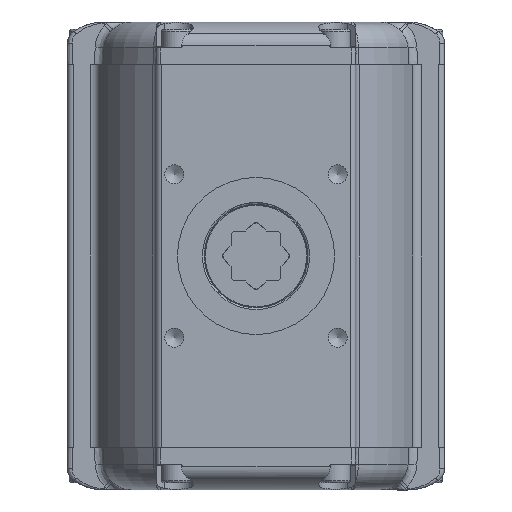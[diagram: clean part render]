
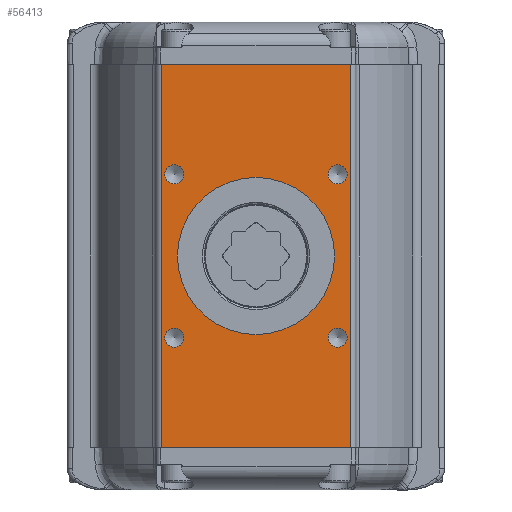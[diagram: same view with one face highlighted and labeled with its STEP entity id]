
A CAD part, front view. The second image highlights one B-rep face of the part: STEP entity #56413.
In plain terms, the highlighted planar face has unit normal (0, -1, 0).
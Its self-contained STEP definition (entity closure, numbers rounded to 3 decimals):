
#24994=CARTESIAN_POINT('',(-51.,-103.,103.6));
#24995=VERTEX_POINT('',#24994);
#25003=CARTESIAN_POINT('',(51.,-103.,103.6));
#25004=VERTEX_POINT('',#25003);
#25005=CARTESIAN_POINT('',(51.,-103.,103.6));
#25006=DIRECTION('',(-1.0,0.0,0.0));
#25007=VECTOR('',#25006,102.);
#25008=LINE('',#25005,#25007);
#25009=EDGE_CURVE('',#25004,#24995,#25008,.T.);
#48451=CARTESIAN_POINT('',(51.,-103.,-103.6));
#48452=VERTEX_POINT('',#48451);
#48460=CARTESIAN_POINT('',(-51.,-103.,-103.6));
#48461=VERTEX_POINT('',#48460);
#48462=CARTESIAN_POINT('',(-51.,-103.,-103.6));
#48463=DIRECTION('',(1.0,0.0,0.0));
#48464=VECTOR('',#48463,102.);
#48465=LINE('',#48462,#48464);
#48466=EDGE_CURVE('',#48461,#48452,#48465,.T.);
#55101=CARTESIAN_POINT('',(-39.006,-103.,44.194));
#55102=VERTEX_POINT('',#55101);
#55103=CARTESIAN_POINT('',(-44.194,-103.,44.194));
#55104=DIRECTION('',(0.0,1.0,0.0));
#55105=DIRECTION('',(1.0,0.0,0.0));
#55106=AXIS2_PLACEMENT_3D('',#55103,#55104,#55105);
#55107=CIRCLE('',#55106,5.188);
#55108=EDGE_CURVE('',#55102,#55102,#55107,.T.);
#55180=CARTESIAN_POINT('',(49.382,-103.,-44.194));
#55181=VERTEX_POINT('',#55180);
#55182=CARTESIAN_POINT('',(44.194,-103.,-44.194));
#55183=DIRECTION('',(0.0,1.0,0.0));
#55184=DIRECTION('',(1.0,0.0,0.0));
#55185=AXIS2_PLACEMENT_3D('',#55182,#55183,#55184);
#55186=CIRCLE('',#55185,5.188);
#55187=EDGE_CURVE('',#55181,#55181,#55186,.T.);
#55259=CARTESIAN_POINT('',(-39.006,-103.,-44.194));
#55260=VERTEX_POINT('',#55259);
#55261=CARTESIAN_POINT('',(-44.194,-103.,-44.194));
#55262=DIRECTION('',(0.0,1.0,0.0));
#55263=DIRECTION('',(1.0,0.0,0.0));
#55264=AXIS2_PLACEMENT_3D('',#55261,#55262,#55263);
#55265=CIRCLE('',#55264,5.188);
#55266=EDGE_CURVE('',#55260,#55260,#55265,.T.);
#55338=CARTESIAN_POINT('',(49.382,-103.,44.194));
#55339=VERTEX_POINT('',#55338);
#55340=CARTESIAN_POINT('',(44.194,-103.,44.194));
#55341=DIRECTION('',(0.0,1.0,0.0));
#55342=DIRECTION('',(1.0,0.0,0.0));
#55343=AXIS2_PLACEMENT_3D('',#55340,#55341,#55342);
#55344=CIRCLE('',#55343,5.188);
#55345=EDGE_CURVE('',#55339,#55339,#55344,.T.);
#55358=CARTESIAN_POINT('',(0.0,-103.,42.5));
#55359=VERTEX_POINT('',#55358);
#55360=CARTESIAN_POINT('',(0.0,-103.,0.0));
#55361=DIRECTION('',(0.0,1.0,0.0));
#55362=DIRECTION('',(0.0,0.0,1.0));
#55363=AXIS2_PLACEMENT_3D('',#55360,#55361,#55362);
#55364=CIRCLE('',#55363,42.5);
#55365=EDGE_CURVE('',#55359,#55359,#55364,.T.);
#56366=CARTESIAN_POINT('',(51.,-103.,103.6));
#56367=DIRECTION('',(0.0,0.0,-1.0));
#56368=VECTOR('',#56367,207.2);
#56369=LINE('',#56366,#56368);
#56370=EDGE_CURVE('',#25004,#48452,#56369,.T.);
#56382=CARTESIAN_POINT('',(54.,-103.,0.0));
#56383=DIRECTION('',(0.0,-1.0,0.0));
#56384=DIRECTION('',(0.0,0.0,-1.0));
#56385=AXIS2_PLACEMENT_3D('',#56382,#56383,#56384);
#56386=PLANE('',#56385);
#56387=ORIENTED_EDGE('',*,*,#56370,.F.);
#56388=ORIENTED_EDGE('',*,*,#25009,.T.);
#56389=CARTESIAN_POINT('',(-51.,-103.,-103.6));
#56390=DIRECTION('',(0.0,0.0,1.0));
#56391=VECTOR('',#56390,207.2);
#56392=LINE('',#56389,#56391);
#56393=EDGE_CURVE('',#48461,#24995,#56392,.T.);
#56394=ORIENTED_EDGE('',*,*,#56393,.F.);
#56395=ORIENTED_EDGE('',*,*,#48466,.T.);
#56396=EDGE_LOOP('',(#56387,#56388,#56394,#56395));
#56397=FACE_OUTER_BOUND('',#56396,.T.);
#56398=ORIENTED_EDGE('',*,*,#55108,.T.);
#56399=EDGE_LOOP('',(#56398));
#56400=FACE_BOUND('',#56399,.T.);
#56401=ORIENTED_EDGE('',*,*,#55187,.T.);
#56402=EDGE_LOOP('',(#56401));
#56403=FACE_BOUND('',#56402,.T.);
#56404=ORIENTED_EDGE('',*,*,#55266,.T.);
#56405=EDGE_LOOP('',(#56404));
#56406=FACE_BOUND('',#56405,.T.);
#56407=ORIENTED_EDGE('',*,*,#55345,.T.);
#56408=EDGE_LOOP('',(#56407));
#56409=FACE_BOUND('',#56408,.T.);
#56410=ORIENTED_EDGE('',*,*,#55365,.T.);
#56411=EDGE_LOOP('',(#56410));
#56412=FACE_BOUND('',#56411,.T.);
#56413=ADVANCED_FACE('',(#56397,#56400,#56403,#56406,#56409,#56412),#56386,.T.);
